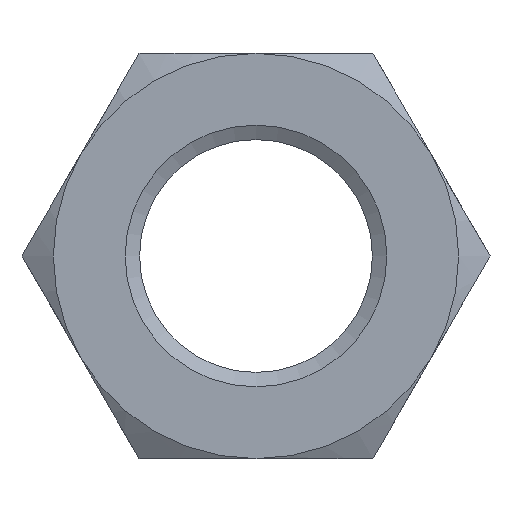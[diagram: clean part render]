
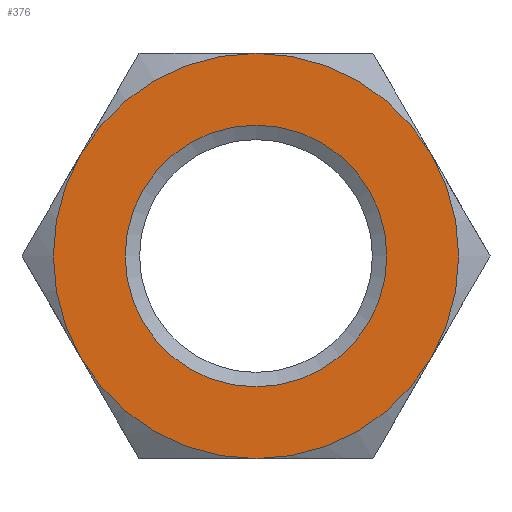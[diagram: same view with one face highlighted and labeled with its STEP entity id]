
A CAD part, left-side view. The second image highlights one B-rep face of the part: STEP entity #376.
In plain terms, the highlighted planar face has unit normal (-1, 0, 0).
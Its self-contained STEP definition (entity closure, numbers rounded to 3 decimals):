
#86=FACE_BOUND('',#123,.T.);
#88=PLANE('',#426);
#99=FACE_OUTER_BOUND('',#122,.T.);
#122=EDGE_LOOP('',(#269,#270,#271,#272,#273,#274));
#123=EDGE_LOOP('',(#275));
#163=CIRCLE('',#421,6.135);
#167=CIRCLE('',#427,9.5);
#168=CIRCLE('',#428,9.5);
#169=CIRCLE('',#429,9.5);
#170=CIRCLE('',#430,9.5);
#171=CIRCLE('',#431,9.5);
#172=CIRCLE('',#432,9.5);
#181=VERTEX_POINT('',#568);
#185=VERTEX_POINT('',#580);
#186=VERTEX_POINT('',#581);
#187=VERTEX_POINT('',#583);
#188=VERTEX_POINT('',#585);
#189=VERTEX_POINT('',#587);
#190=VERTEX_POINT('',#589);
#210=EDGE_CURVE('',#181,#181,#163,.T.);
#216=EDGE_CURVE('',#185,#186,#167,.T.);
#217=EDGE_CURVE('',#186,#187,#168,.T.);
#218=EDGE_CURVE('',#187,#188,#169,.T.);
#219=EDGE_CURVE('',#188,#189,#170,.T.);
#220=EDGE_CURVE('',#189,#190,#171,.T.);
#221=EDGE_CURVE('',#190,#185,#172,.T.);
#269=ORIENTED_EDGE('',*,*,#216,.T.);
#270=ORIENTED_EDGE('',*,*,#217,.T.);
#271=ORIENTED_EDGE('',*,*,#218,.T.);
#272=ORIENTED_EDGE('',*,*,#219,.T.);
#273=ORIENTED_EDGE('',*,*,#220,.T.);
#274=ORIENTED_EDGE('',*,*,#221,.T.);
#275=ORIENTED_EDGE('',*,*,#210,.F.);
#376=ADVANCED_FACE('',(#99,#86),#88,.F.);
#421=AXIS2_PLACEMENT_3D('',#569,#469,#470);
#426=AXIS2_PLACEMENT_3D('',#579,#481,#482);
#427=AXIS2_PLACEMENT_3D('',#582,#483,#484);
#428=AXIS2_PLACEMENT_3D('',#584,#485,#486);
#429=AXIS2_PLACEMENT_3D('',#586,#487,#488);
#430=AXIS2_PLACEMENT_3D('',#588,#489,#490);
#431=AXIS2_PLACEMENT_3D('',#590,#491,#492);
#432=AXIS2_PLACEMENT_3D('',#591,#493,#494);
#469=DIRECTION('center_axis',(-1.,0.,0.));
#470=DIRECTION('ref_axis',(0.,0.,-1.));
#481=DIRECTION('center_axis',(1.,0.,0.));
#482=DIRECTION('ref_axis',(0.,0.,-1.));
#483=DIRECTION('center_axis',(-1.,0.,0.));
#484=DIRECTION('ref_axis',(0.,1.,0.));
#485=DIRECTION('center_axis',(-1.,0.,0.));
#486=DIRECTION('ref_axis',(0.,1.,0.));
#487=DIRECTION('center_axis',(-1.,0.,0.));
#488=DIRECTION('ref_axis',(0.,1.,0.));
#489=DIRECTION('center_axis',(-1.,0.,0.));
#490=DIRECTION('ref_axis',(0.,1.,0.));
#491=DIRECTION('center_axis',(-1.,0.,0.));
#492=DIRECTION('ref_axis',(0.,1.,0.));
#493=DIRECTION('center_axis',(-1.,0.,0.));
#494=DIRECTION('ref_axis',(0.,1.,0.));
#568=CARTESIAN_POINT('',(0.,0.,6.135));
#569=CARTESIAN_POINT('Origin',(0.,0.,0.));
#579=CARTESIAN_POINT('Origin',(0.,0.,0.));
#580=CARTESIAN_POINT('',(0.,-8.227,-4.75));
#581=CARTESIAN_POINT('',(0.,-8.227,4.75));
#582=CARTESIAN_POINT('Origin',(0.,0.,0.));
#583=CARTESIAN_POINT('',(0.,0.,9.5));
#584=CARTESIAN_POINT('Origin',(0.,0.,0.));
#585=CARTESIAN_POINT('',(0.,8.227,4.75));
#586=CARTESIAN_POINT('Origin',(0.,0.,0.));
#587=CARTESIAN_POINT('',(0.,8.227,-4.75));
#588=CARTESIAN_POINT('Origin',(0.,0.,0.));
#589=CARTESIAN_POINT('',(0.,0.,-9.5));
#590=CARTESIAN_POINT('Origin',(0.,0.,0.));
#591=CARTESIAN_POINT('Origin',(0.,0.,0.));
